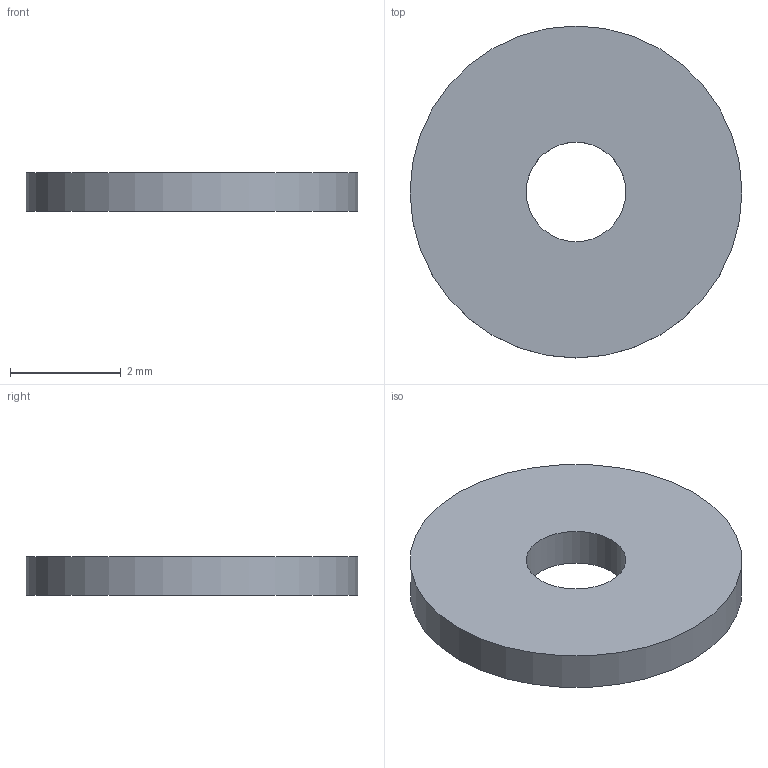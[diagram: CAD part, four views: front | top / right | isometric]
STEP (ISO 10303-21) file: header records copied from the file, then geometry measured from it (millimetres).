
FILE_DESCRIPTION(('Open CASCADE Model'),'2;1');
FILE_NAME('Open CASCADE Shape Model','2026-09-06T11:23:49',('Author'),( 'Open CASCADE'),'Open CASCADE STEP processor 7.7','Open CASCADE 7.7' ,'Unknown');
FILE_SCHEMA(('AUTOMOTIVE_DESIGN { 1 0 10303 214 1 1 1 1 }'));
Length unit declared in the file: millimetre
Products named in the file (1): Open CASCADE STEP translator 7.7 21
Bounding box: 6 x 6 x 0.7 mm (x, y, z)
Volume: 18 mm3; surface area: 68.6 mm2
Topology: 1 solids, 1 shells, 4 faces, 6 edges, 4 vertices
Faces by surface type: cylinder 2, plane 2
Full cylindrical faces by diameter (mm): 1.8 x1, 6 x1
Entity records: 192 total; most frequent: CARTESIAN_POINT 39, DIRECTION 30, ORIENTED_EDGE 12, PCURVE 12, DEFINITIONAL_REPRESENTATION 12, LINE 10, VECTOR 10, AXIS2_PLACEMENT_3D 9
